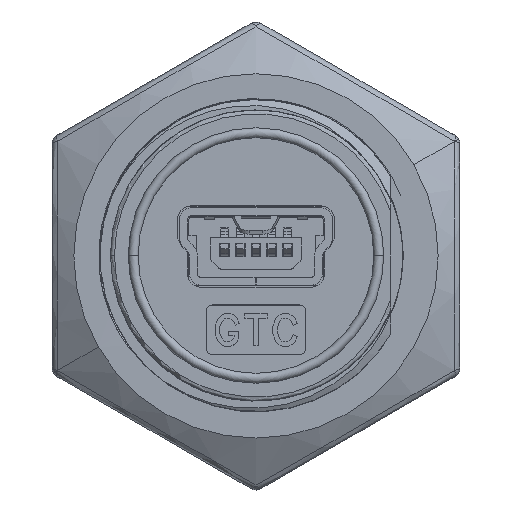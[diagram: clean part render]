
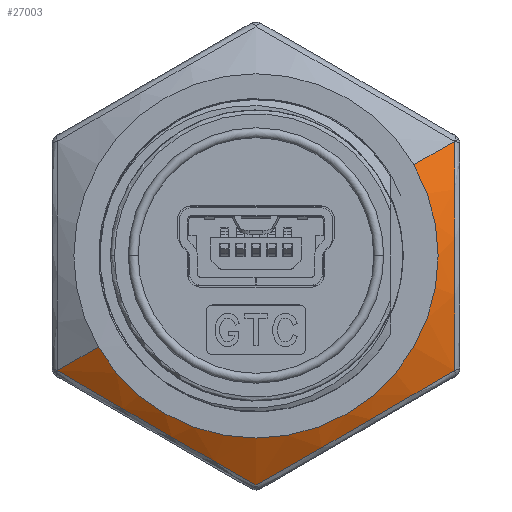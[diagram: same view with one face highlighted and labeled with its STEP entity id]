
A CAD part, top view. The second image highlights one B-rep face of the part: STEP entity #27003.
In plain terms, the highlighted conical face has half-angle 60 degrees and reference radius 11.91 mm.
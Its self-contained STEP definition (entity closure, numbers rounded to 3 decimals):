
#57 = ORIENTED_EDGE ( 'NONE', *, *, #11792, .T. ) ;
#2340 = CARTESIAN_POINT ( 'NONE',  ( 3.32, -9.683, 7.608 ) ) ;
#2556 = CARTESIAN_POINT ( 'NONE',  ( 0., 0., 8.2 ) ) ;
#3517 = CARTESIAN_POINT ( 'NONE',  ( 10.05, 0.968, 7.71 ) ) ;
#4045 = CARTESIAN_POINT ( 'NONE',  ( 0., -11.566, 6.834 ) ) ;
#6529 = ORIENTED_EDGE ( 'NONE', *, *, #49577, .T. ) ;
#6943 = VECTOR ( 'NONE', #83609, 1000. ) ;
#7044 = VERTEX_POINT ( 'NONE', #75670 ) ;
#8554 = CARTESIAN_POINT ( 'NONE',  ( -8.387, -6.744, 7.321 ) ) ;
#9067 = CIRCLE ( 'NONE', #68307, 9.2 ) ;
#11792 = EDGE_CURVE ( 'NONE', #72041, #21095, #40982, .T. ) ;
#13472 = ORIENTED_EDGE ( 'NONE', *, *, #50323, .F. ) ;
#13521 = CARTESIAN_POINT ( 'NONE',  ( 10.017, -5.783, 6.834 ) ) ;
#14154 = B_SPLINE_CURVE_WITH_KNOTS ( 'NONE', 3,
 ( #13521, #63992, #57379, #44128, #73122, #58237, #74013, #3517, #24239, #33384, #32952, #64429 ),
 .UNSPECIFIED., .F., .F.,
 ( 4, 2, 2, 2, 2, 4 ),
 ( 0., 0.003, 0.004, 0.006, 0.009, 0.012 ),
 .UNSPECIFIED. ) ;
#15617 = CARTESIAN_POINT ( 'NONE',  ( -1.653, -10.631, 7.323 ) ) ;
#17727 = CARTESIAN_POINT ( 'NONE',  ( 10.017, -5.783, 6.834 ) ) ;
#20768 = CARTESIAN_POINT ( 'NONE',  ( 10.017, -5.783, 6.834 ) ) ;
#20930 = CARTESIAN_POINT ( 'NONE',  ( -4.186, -9.188, 7.71 ) ) ;
#21095 = VERTEX_POINT ( 'NONE', #38630 ) ;
#22427 = DIRECTION ( 'NONE',  ( -0.866, -0.5, 0. ) ) ;
#23506 = VERTEX_POINT ( 'NONE', #76147 ) ;
#24239 = CARTESIAN_POINT ( 'NONE',  ( 10.046, 1.949, 7.628 ) ) ;
#26831 = FACE_OUTER_BOUND ( 'NONE', #65716, .T. ) ;
#27003 = ADVANCED_FACE ( 'NONE', ( #26831 ), #65238, .T. ) ;
#27550 = CARTESIAN_POINT ( 'NONE',  ( -9.205, -6.262, 7.101 ) ) ;
#30114 = CARTESIAN_POINT ( 'NONE',  ( 5.864, -8.219, 7.71 ) ) ;
#30498 = EDGE_CURVE ( 'NONE', #21095, #61304, #75207, .T. ) ;
#30973 = CARTESIAN_POINT ( 'NONE',  ( 4.164, -9.2, 7.688 ) ) ;
#32864 = CARTESIAN_POINT ( 'NONE',  ( -10.017, -5.783, 6.834 ) ) ;
#32952 = CARTESIAN_POINT ( 'NONE',  ( 10.025, 4.839, 7.102 ) ) ;
#33384 = CARTESIAN_POINT ( 'NONE',  ( 10.034, 3.884, 7.323 ) ) ;
#34764 = CARTESIAN_POINT ( 'NONE',  ( 0., 0., 6.636 ) ) ;
#37174 = CARTESIAN_POINT ( 'NONE',  ( 2.9, -9.922, 7.549 ) ) ;
#37204 = CARTESIAN_POINT ( 'NONE',  ( 10.314, 5.955, 6.636 ) ) ;
#38630 = CARTESIAN_POINT ( 'NONE',  ( 0., -11.566, 6.834 ) ) ;
#40449 = VECTOR ( 'NONE', #57939, 1000. ) ;
#40982 = B_SPLINE_CURVE_WITH_KNOTS ( 'NONE', 3,
 ( #61969, #27550, #8554, #62408, #82743, #81438, #76110, #20930, #54922, #15617, #47881, #74798 ),
 .UNSPECIFIED., .F., .F.,
 ( 4, 2, 2, 2, 2, 4 ),
 ( 0., 0.003, 0.004, 0.006, 0.009, 0.012 ),
 .UNSPECIFIED. ) ;
#42668 = ORIENTED_EDGE ( 'NONE', *, *, #30498, .T. ) ;
#43028 = VERTEX_POINT ( 'NONE', #68108 ) ;
#44128 = CARTESIAN_POINT ( 'NONE',  ( 10.043, -2.45, 7.549 ) ) ;
#44264 = LINE ( 'NONE', #77812, #40449 ) ;
#44330 = EDGE_CURVE ( 'NONE', #7044, #43028, #9067, .T. ) ;
#47881 = CARTESIAN_POINT ( 'NONE',  ( -0.822, -11.102, 7.102 ) ) ;
#47906 = ORIENTED_EDGE ( 'NONE', *, *, #44330, .T. ) ;
#49577 = EDGE_CURVE ( 'NONE', #43028, #72041, #44264, .T. ) ;
#50323 = EDGE_CURVE ( 'NONE', #7044, #23506, #84034, .T. ) ;
#53767 = DIRECTION ( 'NONE',  ( 0., 0., -1. ) ) ;
#54922 = CARTESIAN_POINT ( 'NONE',  ( -3.335, -9.675, 7.628 ) ) ;
#57379 = CARTESIAN_POINT ( 'NONE',  ( 10.034, -3.891, 7.321 ) ) ;
#57904 = CARTESIAN_POINT ( 'NONE',  ( 8.38, -6.748, 7.323 ) ) ;
#57939 = DIRECTION ( 'NONE',  ( -0.75, -0.433, -0.5 ) ) ;
#58237 = CARTESIAN_POINT ( 'NONE',  ( 10.049, -0.994, 7.688 ) ) ;
#61304 = VERTEX_POINT ( 'NONE', #20768 ) ;
#61969 = CARTESIAN_POINT ( 'NONE',  ( -10.017, -5.783, 6.834 ) ) ;
#62408 = CARTESIAN_POINT ( 'NONE',  ( -7.143, -7.473, 7.549 ) ) ;
#63672 = CARTESIAN_POINT ( 'NONE',  ( 9.203, -6.263, 7.102 ) ) ;
#63992 = CARTESIAN_POINT ( 'NONE',  ( 10.025, -4.841, 7.101 ) ) ;
#64429 = CARTESIAN_POINT ( 'NONE',  ( 10.017, 5.783, 6.834 ) ) ;
#65238 = CONICAL_SURFACE ( 'NONE', #69505, 11.91, 1.047 ) ;
#65716 = EDGE_LOOP ( 'NONE', ( #13472, #47906, #6529, #57, #42668, #66712 ) ) ;
#66712 = ORIENTED_EDGE ( 'NONE', *, *, #85942, .T. ) ;
#68108 = CARTESIAN_POINT ( 'NONE',  ( -7.967, -4.6, 8.2 ) ) ;
#68307 = AXIS2_PLACEMENT_3D ( 'NONE', #2556, #75863, #22427 ) ;
#69505 = AXIS2_PLACEMENT_3D ( 'NONE', #34764, #53767, #80703 ) ;
#72041 = VERTEX_POINT ( 'NONE', #32864 ) ;
#73122 = CARTESIAN_POINT ( 'NONE',  ( 10.046, -1.966, 7.608 ) ) ;
#74013 = CARTESIAN_POINT ( 'NONE',  ( 10.05, -0.503, 7.709 ) ) ;
#74798 = CARTESIAN_POINT ( 'NONE',  ( 0., -11.566, 6.834 ) ) ;
#75207 = B_SPLINE_CURVE_WITH_KNOTS ( 'NONE', 3,
 ( #4045, #77781, #78213, #37174, #2340, #30973, #76931, #30114, #77352, #57904, #63672, #17727 ),
 .UNSPECIFIED., .F., .F.,
 ( 4, 2, 2, 2, 2, 4 ),
 ( 0., 0.003, 0.004, 0.006, 0.009, 0.012 ),
 .UNSPECIFIED. ) ;
#75670 = CARTESIAN_POINT ( 'NONE',  ( 7.967, 4.6, 8.2 ) ) ;
#75863 = DIRECTION ( 'NONE',  ( 0., 0., -1. ) ) ;
#76110 = CARTESIAN_POINT ( 'NONE',  ( -5.461, -8.452, 7.709 ) ) ;
#76147 = CARTESIAN_POINT ( 'NONE',  ( 10.017, 5.783, 6.834 ) ) ;
#76931 = CARTESIAN_POINT ( 'NONE',  ( 4.589, -8.955, 7.709 ) ) ;
#77352 = CARTESIAN_POINT ( 'NONE',  ( 6.711, -7.726, 7.628 ) ) ;
#77781 = CARTESIAN_POINT ( 'NONE',  ( 0.82, -11.103, 7.101 ) ) ;
#77812 = CARTESIAN_POINT ( 'NONE',  ( -10.314, -5.955, 6.636 ) ) ;
#78213 = CARTESIAN_POINT ( 'NONE',  ( 1.647, -10.635, 7.321 ) ) ;
#80703 = DIRECTION ( 'NONE',  ( -0.866, -0.5, 0. ) ) ;
#81438 = CARTESIAN_POINT ( 'NONE',  ( -5.885, -8.206, 7.688 ) ) ;
#82743 = CARTESIAN_POINT ( 'NONE',  ( -6.726, -7.717, 7.608 ) ) ;
#83609 = DIRECTION ( 'NONE',  ( 0.75, 0.433, -0.5 ) ) ;
#84034 = LINE ( 'NONE', #37204, #6943 ) ;
#85942 = EDGE_CURVE ( 'NONE', #61304, #23506, #14154, .T. ) ;
